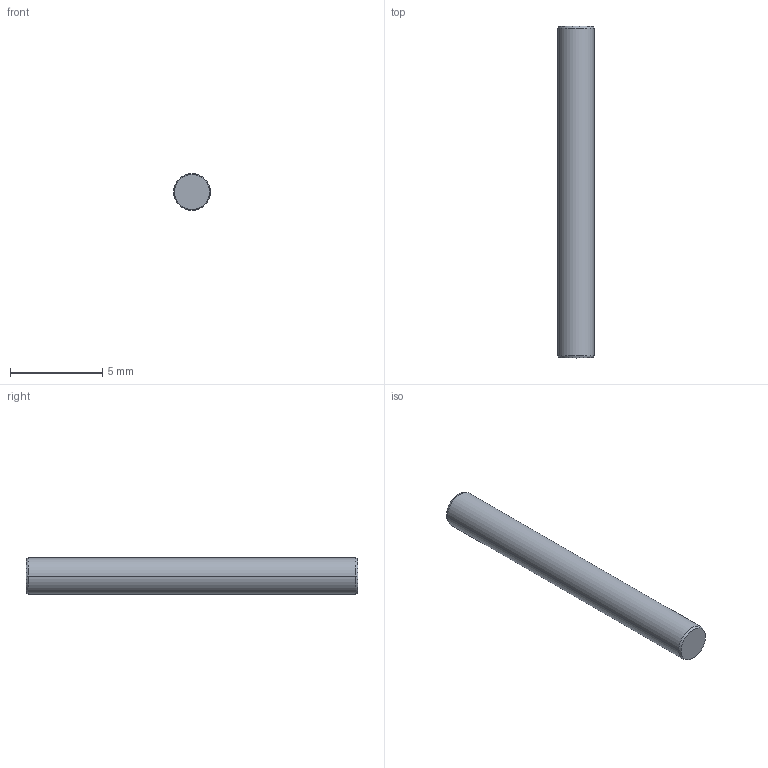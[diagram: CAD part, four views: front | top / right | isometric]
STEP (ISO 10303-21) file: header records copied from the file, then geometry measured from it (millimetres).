
FILE_DESCRIPTION((''),'2;1');
FILE_NAME('2X18MMSS_PIN','2024-02-22T15:49:58',('qinghui.yi'),(''),'CREO PARAMETRIC BY PTC INC, 2019164','CREO PARAMETRIC BY PTC INC, 2019164','');
FILE_SCHEMA(('CONFIG_CONTROL_DESIGN','SHAPE_APPEARANCE_LAYERS_GROUPS'));
Length unit declared in the file: millimetre
Products named in the file (1): 2X18MMSS_PIN
Bounding box: 2 x 18 x 2 mm (x, y, z)
Volume: 56.5 mm3; surface area: 118.8 mm2
Topology: 1 solids, 1 shells, 8 faces, 28 edges, 28 vertices
Faces by surface type: cone 4, plane 2, cylinder 2
Entity records: 698 total; most frequent: COLOUR_RGB 312, DIRECTION 62, CARTESIAN_POINT 53, ORIENTED_EDGE 44, AXIS2_PLACEMENT_3D 25, EDGE_CURVE 22, VERTEX_POINT 16, CIRCLE 16
